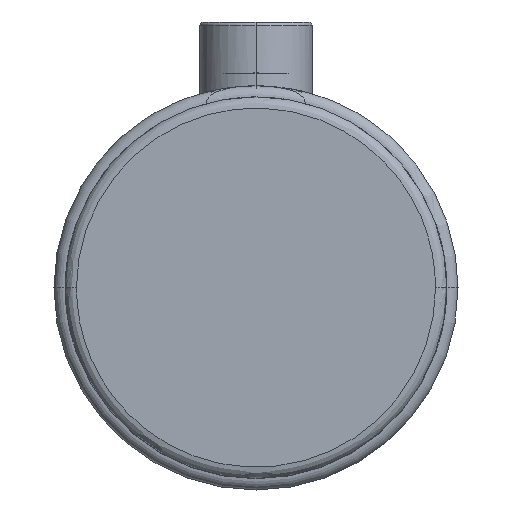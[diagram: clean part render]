
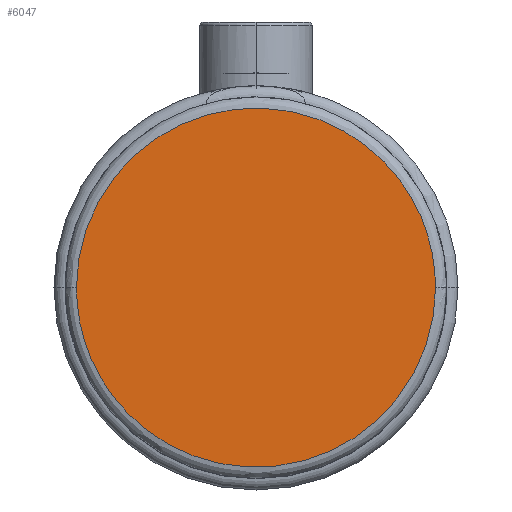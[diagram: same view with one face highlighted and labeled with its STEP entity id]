
A CAD part, top view. The second image highlights one B-rep face of the part: STEP entity #6047.
In plain terms, the highlighted planar face has unit normal (0, 0, 1).
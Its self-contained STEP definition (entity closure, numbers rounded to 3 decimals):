
#729 = CARTESIAN_POINT ( 'NONE',  ( 0., 25.4, 50. ) ) ;
#1269 = EDGE_LOOP ( 'NONE', ( #3902, #3573 ) ) ;
#2805 = PLANE ( 'NONE',  #3487 ) ;
#3029 = CARTESIAN_POINT ( 'NONE',  ( -47.8, 0., 50. ) ) ;
#3077 = VERTEX_POINT ( 'NONE', #9594 ) ;
#3487 = AXIS2_PLACEMENT_3D ( 'NONE', #729, #5916, #12887 ) ;
#3573 = ORIENTED_EDGE ( 'NONE', *, *, #8537, .F. ) ;
#3745 = CARTESIAN_POINT ( 'NONE',  ( -47.8, 0., 50. ) ) ;
#3902 = ORIENTED_EDGE ( 'NONE', *, *, #8097, .F. ) ;
#4027 = FACE_OUTER_BOUND ( 'NONE', #1269, .T. ) ;
#4081 = CARTESIAN_POINT ( 'NONE',  ( 47.8, 95.6, 50. ) ) ;
#5147 =( BOUNDED_CURVE ( )  B_SPLINE_CURVE ( 3, ( #9761, #10732, #5785, #12769 ),
 .UNSPECIFIED., .F., .F. ) 
 B_SPLINE_CURVE_WITH_KNOTS ( ( 4, 4 ),
 ( 0.25, 0.75 ),
 .UNSPECIFIED. ) 
 CURVE ( )  GEOMETRIC_REPRESENTATION_ITEM ( )  RATIONAL_B_SPLINE_CURVE ( ( 1., 0.333, 0.333, 1. ) ) 
 REPRESENTATION_ITEM ( '' )  );
#5785 = CARTESIAN_POINT ( 'NONE',  ( -47.8, -95.6, 50. ) ) ;
#5916 = DIRECTION ( 'NONE',  ( 0., 0., 1. ) ) ;
#6047 = ADVANCED_FACE ( 'NONE', ( #4027 ), #2805, .T. ) ;
#6791 =( BOUNDED_CURVE ( )  B_SPLINE_CURVE ( 3, ( #3029, #10080, #4081, #11070 ),
 .UNSPECIFIED., .F., .T. ) 
 B_SPLINE_CURVE_WITH_KNOTS ( ( 4, 4 ),
 ( 0.75, 1.25 ),
 .UNSPECIFIED. ) 
 CURVE ( )  GEOMETRIC_REPRESENTATION_ITEM ( )  RATIONAL_B_SPLINE_CURVE ( ( 1., 0.333, 0.333, 1. ) ) 
 REPRESENTATION_ITEM ( '' )  );
#8097 = EDGE_CURVE ( 'NONE', #3077, #11699, #5147, .T. ) ;
#8537 = EDGE_CURVE ( 'NONE', #11699, #3077, #6791, .T. ) ;
#9594 = CARTESIAN_POINT ( 'NONE',  ( 47.8, 0., 50. ) ) ;
#9761 = CARTESIAN_POINT ( 'NONE',  ( 47.8, 0., 50. ) ) ;
#10080 = CARTESIAN_POINT ( 'NONE',  ( -47.8, 95.6, 50. ) ) ;
#10732 = CARTESIAN_POINT ( 'NONE',  ( 47.8, -95.6, 50. ) ) ;
#11070 = CARTESIAN_POINT ( 'NONE',  ( 47.8, 0., 50. ) ) ;
#11699 = VERTEX_POINT ( 'NONE', #3745 ) ;
#12769 = CARTESIAN_POINT ( 'NONE',  ( -47.8, 0., 50. ) ) ;
#12887 = DIRECTION ( 'NONE',  ( 0., -1., 0. ) ) ;
